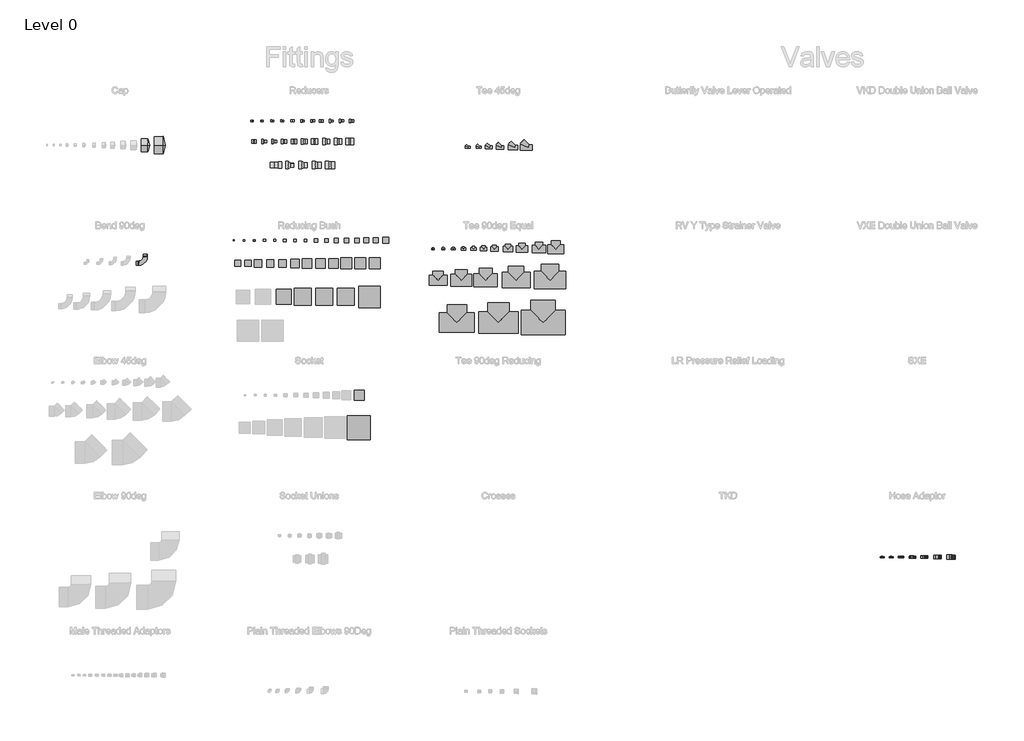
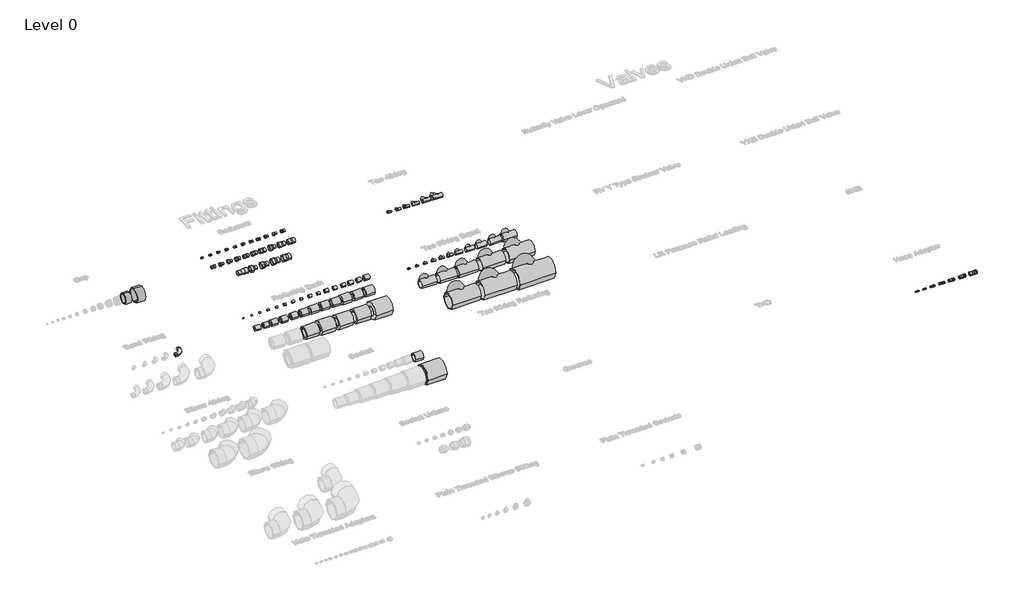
# One storey, part 3 of 12: 96 pipe fittings.
"""IFC4 building model written with IfcOpenShell, lengths in millimetres."""

from ifc_helpers import new_model, si_unit, origin, place, context, project, spatial, transform, mapped, element, save
from components import pipe_fitting_16mm_850bc981, pipe_fitting_25mm_09818e58, pipe_fitting_32mm_ba99279e, pipe_fitting_40mm_e630270e, pipe_fitting_50mm_83d2b3eb, pipe_fitting_63mm_7880f9b0, standard_dfb33618, standard_448b8371, standard_c2af7960, standard_34419c9d, standard_93e3d5d7, standard_e55b3d03, standard_8013207e, standard_dfcddfa7, standard_5c3544ee, standard_363f8bd0, standard_f1e78434, standard_f9ea2102, standard_206df129, standard_86f50a01, standard_abec5e11, standard_1e7e4467, standard_99a5edec, standard_7b42ab66, standard_017ffeb0, standard_373f575a, standard_f10e078b, standard_8775f316, standard_412f0ce8, standard_19ee6f34, standard_e4e67fd3, standard_3ad8c861, standard_5070e319, standard_ad03d6cd, standard_f76fbd2c, standard_6835cc84, standard_3e64da41, standard_85101fb3, standard_fc0df1e9, standard_52aa8875, standard_444fa2a4, standard_c90c374e, standard_609f0164, standard_133bc545, standard_a3a0cd7e, standard_374f9c32, standard_6fe0a5c0, standard_898c3797, standard_5060dffe, standard_5d3190d7, standard_05049b9e, standard_9c856316, standard_b5006dd4, standard_d3bba6bb, standard_af5c8028, standard_d8c47282, standard_e77122b3, standard_09e5b729, standard_e12a8c18, standard_a4762596, standard_249a9a1f, standard_b9ae2978, standard_2dc408c3, standard_f089f47d, standard_6955aa90, standard_6a62e4eb, standard_619cacc8, standard_0de1f3e2, standard_e7fcc8b7, standard_45c3dce5, standard_748e5fda, standard_14331bdb, standard_27df0c5f, standard_8bec462f, standard_50e1fd76, standard_17e0cad9, standard_7ca98134, standard_e05e3457, standard_87a3b79a, standard_8d36d9a6, standard_6810872d, standard_cb71c3b2, standard_6c07f169, standard_9147dc67, standard_b3bd9db2, standard_31d33d31, standard_094accc0, standard_629ca856, standard_0db77153, standard_20fe93ad, standard_bd03fc34, standard_95fd0c06, standard_f4d9acf0, standard_9f0dd0de, standard_9f89ecc7

model = new_model("IFC4")

# Units and contexts
model_context = context("Model", 3, world=origin())
ifc_project = project(units=[si_unit("LENGTHUNIT", "METRE", prefix="MILLI")], contexts=[model_context])

# Site, building, storey
site = spatial("IfcSite", under=ifc_project)
building = spatial("IfcBuilding", under=site)
storey = spatial("IfcBuildingStorey", under=building, Name="Level 0", Elevation=0.0)

# Pipe fittings
placement = place(None, origin())
pipe_fitting_16mm_shape = pipe_fitting_16mm_850bc981(model_context)
element("IfcPipeFitting", 1, ObjectType="Durapipe_PipeAccessories_PVC_HoseAdaptor : 16mm", at=placement, inside=storey, context=model_context, shape_type="MappedRepresentation", body=[
    mapped(pipe_fitting_16mm_shape, transform((-4956.2472943, 2084.5934768, 0.0), x_axis=(1.0, 0.0, 0.0), y_axis=(0.0, 1.0, 0.0), z_axis=(0.0, 0.0, 1.0))),
])
element("IfcPipeFitting", 2, ObjectType="Durapipe_PipeAccessories_PVC_HoseAdaptor : 20mm", at=placement, inside=storey, context=model_context, shape_type="MappedRepresentation", body=[
    mapped(pipe_fitting_16mm_shape, transform((-4823.8886064, 2084.5934768, 0.0), x_axis=(1.0, 0.0, 0.0), y_axis=(0.0, 1.0, 0.0), z_axis=(0.0, 0.0, 1.0))),
])
pipe_fitting_25mm_shape = pipe_fitting_25mm_09818e58(model_context)
element("IfcPipeFitting", 3, ObjectType="Durapipe_PipeAccessories_PVC_HoseAdaptor : 25mm", at=placement, inside=storey, context=model_context, shape_type="MappedRepresentation", body=[
    mapped(pipe_fitting_25mm_shape, transform((-4676.1839836, 2084.5934768, 0.0), x_axis=(1.0, 0.0, 0.0), y_axis=(0.0, 1.0, 0.0), z_axis=(0.0, 0.0, 1.0))),
])
pipe_fitting_32mm_shape = pipe_fitting_32mm_ba99279e(model_context)
element("IfcPipeFitting", 4, ObjectType="Durapipe_PipeAccessories_PVC_HoseAdaptor : 32mm", at=placement, inside=storey, context=model_context, shape_type="MappedRepresentation", body=[
    mapped(pipe_fitting_32mm_shape, transform((-4505.4604586, 2084.5934768, 0.0), x_axis=(1.0, 0.0, 0.0), y_axis=(0.0, 1.0, 0.0), z_axis=(0.0, 0.0, 1.0))),
])
pipe_fitting_40mm_shape = pipe_fitting_40mm_e630270e(model_context)
element("IfcPipeFitting", 5, ObjectType="Durapipe_PipeAccessories_PVC_HoseAdaptor : 40mm", at=placement, inside=storey, context=model_context, shape_type="MappedRepresentation", body=[
    mapped(pipe_fitting_40mm_shape, transform((-4332.7558358, 2084.5934768, 0.0), x_axis=(1.0, 0.0, 0.0), y_axis=(0.0, 1.0, 0.0), z_axis=(0.0, 0.0, 1.0))),
])
pipe_fitting_50mm_shape = pipe_fitting_50mm_83d2b3eb(model_context)
element("IfcPipeFitting", 6, ObjectType="Durapipe_PipeAccessories_PVC_HoseAdaptor : 50mm", at=placement, inside=storey, context=model_context, shape_type="MappedRepresentation", body=[
    mapped(pipe_fitting_50mm_shape, transform((-4135.0512131, 2084.5934768, 0.0), x_axis=(1.0, 0.0, 0.0), y_axis=(0.0, 1.0, 0.0), z_axis=(0.0, 0.0, 1.0))),
])
pipe_fitting_63mm_shape = pipe_fitting_63mm_7880f9b0(model_context)
element("IfcPipeFitting", 7, ObjectType="Durapipe_PipeAccessories_PVC_HoseAdaptor : 63mm", at=placement, inside=storey, context=model_context, shape_type="MappedRepresentation", body=[
    mapped(pipe_fitting_63mm_shape, transform((-3937.8182369, 2084.5934768, 0.0), x_axis=(1.0, 0.0, 0.0), y_axis=(0.0, 1.0, 0.0), z_axis=(0.0, 0.0, 1.0))),
])
standard_shape = standard_dfb33618(model_context)
element("IfcPipeFitting", 8, ObjectType="Durapipe_PipeFitting_PVC_Reducers : Standard", at=placement, inside=storey, context=model_context, shape_type="MappedRepresentation", body=[
    mapped(standard_shape, transform((-14135.3898596, 8540.3357405, 0.0), x_axis=(-1.0000000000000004, 0.0, 0.0), y_axis=(0.0, -1.0000000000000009, 0.0), z_axis=(0.0, 0.0, 1.0000000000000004))),
])
standard_2_shape = standard_448b8371(model_context)
element("IfcPipeFitting", 9, ObjectType="Durapipe_PipeFitting_PVC_Reducers : Standard", at=placement, inside=storey, context=model_context, shape_type="MappedRepresentation", body=[
    mapped(standard_2_shape, transform((-13985.3898596, 8540.3357405, 0.0), x_axis=(-1.0000000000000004, 0.0, 0.0), y_axis=(0.0, -1.0000000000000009, 0.0), z_axis=(0.0, 0.0, 1.0000000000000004))),
])
standard_3_shape = standard_c2af7960(model_context)
element("IfcPipeFitting", 10, ObjectType="Durapipe_PipeFitting_PVC_Reducers : Standard", at=placement, inside=storey, context=model_context, shape_type="MappedRepresentation", body=[
    mapped(standard_3_shape, transform((-13835.3898596, 8540.3357405, 0.0), x_axis=(-1.0000000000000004, 0.0, 0.0), y_axis=(0.0, -1.0000000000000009, 0.0), z_axis=(0.0, 0.0, 1.0000000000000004))),
])
standard_4_shape = standard_34419c9d(model_context)
element("IfcPipeFitting", 11, ObjectType="Durapipe_PipeFitting_PVC_Reducers : Standard", at=placement, inside=storey, context=model_context, shape_type="MappedRepresentation", body=[
    mapped(standard_4_shape, transform((-13685.3898596, 8540.3357405, 0.0), x_axis=(-1.0000000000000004, 0.0, 0.0), y_axis=(0.0, -1.0000000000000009, 0.0), z_axis=(0.0, 0.0, 1.0000000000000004))),
])
standard_5_shape = standard_93e3d5d7(model_context)
element("IfcPipeFitting", 12, ObjectType="Durapipe_PipeFitting_PVC_Reducers : Standard", at=placement, inside=storey, context=model_context, shape_type="MappedRepresentation", body=[
    mapped(standard_5_shape, transform((-13535.3898596, 8540.3357405, 0.0), x_axis=(-1.0000000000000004, 0.0, 0.0), y_axis=(0.0, -1.0000000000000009, 0.0), z_axis=(0.0, 0.0, 1.0000000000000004))),
])
standard_6_shape = standard_e55b3d03(model_context)
element("IfcPipeFitting", 13, ObjectType="Durapipe_PipeFitting_PVC_Reducers : Standard", at=placement, inside=storey, context=model_context, shape_type="MappedRepresentation", body=[
    mapped(standard_6_shape, transform((-13385.3898596, 8540.3357405, 0.0), x_axis=(-1.0000000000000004, 0.0, 0.0), y_axis=(0.0, -1.0000000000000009, 0.0), z_axis=(0.0, 0.0, 1.0000000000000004))),
])
standard_7_shape = standard_8013207e(model_context)
element("IfcPipeFitting", 14, ObjectType="Durapipe_PipeFitting_PVC_Reducers : Standard", at=placement, inside=storey, context=model_context, shape_type="MappedRepresentation", body=[
    mapped(standard_7_shape, transform((-13259.6569708, 8540.3357405, 0.0), x_axis=(-1.0000000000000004, 0.0, 0.0), y_axis=(0.0, -1.0000000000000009, 0.0), z_axis=(0.0, 0.0, 1.0000000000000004))),
])
standard_8_shape = standard_dfcddfa7(model_context)
element("IfcPipeFitting", 15, ObjectType="Durapipe_PipeFitting_PVC_Reducers : Standard", at=placement, inside=storey, context=model_context, shape_type="MappedRepresentation", body=[
    mapped(standard_8_shape, transform((-13109.6569708, 8540.3357405, 0.0), x_axis=(-1.0000000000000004, 0.0, 0.0), y_axis=(0.0, -1.0000000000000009, 0.0), z_axis=(0.0, 0.0, 1.0000000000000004))),
])
standard_9_shape = standard_5c3544ee(model_context)
element("IfcPipeFitting", 16, ObjectType="Durapipe_PipeFitting_PVC_Reducers : Standard", at=placement, inside=storey, context=model_context, shape_type="MappedRepresentation", body=[
    mapped(standard_9_shape, transform((-12959.6569708, 8540.3357405, 0.0), x_axis=(-1.0000000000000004, 0.0, 0.0), y_axis=(0.0, -1.0000000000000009, 0.0), z_axis=(0.0, 0.0, 1.0000000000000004))),
])
standard_10_shape = standard_363f8bd0(model_context)
element("IfcPipeFitting", 17, ObjectType="Durapipe_PipeFitting_PVC_Reducers : Standard", at=placement, inside=storey, context=model_context, shape_type="MappedRepresentation", body=[
    mapped(standard_10_shape, transform((-12809.6569708, 8540.3357405, 0.0), x_axis=(-1.0000000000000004, 0.0, 0.0), y_axis=(0.0, -1.0000000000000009, 0.0), z_axis=(0.0, 0.0, 1.0000000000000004))),
])
standard_11_shape = standard_f1e78434(model_context)
element("IfcPipeFitting", 18, ObjectType="Durapipe_PipeFitting_PVC_Reducers : Standard", at=placement, inside=storey, context=model_context, shape_type="MappedRepresentation", body=[
    mapped(standard_11_shape, transform((-14254.8898596, 8235.3357405, 0.0), x_axis=(-1.0000000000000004, 0.0, 0.0), y_axis=(0.0, -1.0000000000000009, 0.0), z_axis=(0.0, 0.0, 1.0000000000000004))),
])
standard_12_shape = standard_f9ea2102(model_context)
element("IfcPipeFitting", 19, ObjectType="Durapipe_PipeFitting_PVC_Reducers : Standard", at=placement, inside=storey, context=model_context, shape_type="MappedRepresentation", body=[
    mapped(standard_12_shape, transform((-14104.8898596, 8235.3357405, 0.0), x_axis=(-1.0000000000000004, 0.0, 0.0), y_axis=(0.0, -1.0000000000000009, 0.0), z_axis=(0.0, 0.0, 1.0000000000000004))),
])
standard_13_shape = standard_206df129(model_context)
element("IfcPipeFitting", 20, ObjectType="Durapipe_PipeFitting_PVC_Reducers : Standard", at=placement, inside=storey, context=model_context, shape_type="MappedRepresentation", body=[
    mapped(standard_13_shape, transform((-13954.8898596, 8235.3357405, 0.0), x_axis=(-1.0000000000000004, 0.0, 0.0), y_axis=(0.0, -1.0000000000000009, 0.0), z_axis=(0.0, 0.0, 1.0000000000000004))),
])
standard_14_shape = standard_86f50a01(model_context)
element("IfcPipeFitting", 21, ObjectType="Durapipe_PipeFitting_PVC_Reducers : Standard", at=placement, inside=storey, context=model_context, shape_type="MappedRepresentation", body=[
    mapped(standard_14_shape, transform((-13811.2381562, 8235.3357405, 0.0), x_axis=(-1.0000000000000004, 0.0, 0.0), y_axis=(0.0, -1.0000000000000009, 0.0), z_axis=(0.0, 0.0, 1.0000000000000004))),
])
standard_15_shape = standard_abec5e11(model_context)
element("IfcPipeFitting", 22, ObjectType="Durapipe_PipeFitting_PVC_Reducers : Standard", at=placement, inside=storey, context=model_context, shape_type="MappedRepresentation", body=[
    mapped(standard_15_shape, transform((-13659.7381562, 8235.3357405, 0.0), x_axis=(-1.0000000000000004, 0.0, 0.0), y_axis=(0.0, -1.0000000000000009, 0.0), z_axis=(0.0, 0.0, 1.0000000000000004))),
])
standard_16_shape = standard_1e7e4467(model_context)
element("IfcPipeFitting", 23, ObjectType="Durapipe_PipeFitting_PVC_Reducers : Standard", at=placement, inside=storey, context=model_context, shape_type="MappedRepresentation", body=[
    mapped(standard_16_shape, transform((-13509.7381562, 8235.3357405, 0.0), x_axis=(-1.0000000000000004, 0.0, 0.0), y_axis=(0.0, -1.0000000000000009, 0.0), z_axis=(0.0, 0.0, 1.0000000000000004))),
])
standard_17_shape = standard_99a5edec(model_context)
element("IfcPipeFitting", 24, ObjectType="Durapipe_PipeFitting_PVC_Reducers : Standard", at=placement, inside=storey, context=model_context, shape_type="MappedRepresentation", body=[
    mapped(standard_17_shape, transform((-13359.7381562, 8235.3357405, 0.0), x_axis=(-1.0000000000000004, 0.0, 0.0), y_axis=(0.0, -1.0000000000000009, 0.0), z_axis=(0.0, 0.0, 1.0000000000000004))),
])
standard_18_shape = standard_7b42ab66(model_context)
element("IfcPipeFitting", 25, ObjectType="Durapipe_PipeFitting_PVC_Reducers : Standard", at=placement, inside=storey, context=model_context, shape_type="MappedRepresentation", body=[
    mapped(standard_18_shape, transform((-13184.7381562, 8235.3357405, 0.0), x_axis=(-1.0000000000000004, 0.0, 0.0), y_axis=(0.0, -1.0000000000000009, 0.0), z_axis=(0.0, 0.0, 1.0000000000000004))),
])
standard_19_shape = standard_017ffeb0(model_context)
element("IfcPipeFitting", 26, ObjectType="Durapipe_PipeFitting_PVC_Reducers : Standard", at=placement, inside=storey, context=model_context, shape_type="MappedRepresentation", body=[
    mapped(standard_19_shape, transform((-13009.7381562, 8235.3357405, 0.0), x_axis=(-1.0000000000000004, 0.0, 0.0), y_axis=(0.0, -1.0000000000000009, 0.0), z_axis=(0.0, 0.0, 1.0000000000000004))),
])
standard_20_shape = standard_373f575a(model_context)
element("IfcPipeFitting", 27, ObjectType="Durapipe_PipeFitting_PVC_Reducers : Standard", at=placement, inside=storey, context=model_context, shape_type="MappedRepresentation", body=[
    mapped(standard_20_shape, transform((-12834.7381562, 8235.3357405, 0.0), x_axis=(-1.0000000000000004, 0.0, 0.0), y_axis=(0.0, -1.0000000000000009, 0.0), z_axis=(0.0, 0.0, 1.0000000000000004))),
])
standard_21_shape = standard_f10e078b(model_context)
element("IfcPipeFitting", 28, ObjectType="Durapipe_PipeFitting_PVC_Reducers : Standard", at=placement, inside=storey, context=model_context, shape_type="MappedRepresentation", body=[
    mapped(standard_21_shape, transform((-13927.1398596, 7885.3357405, 0.0), x_axis=(-1.0000000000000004, 0.0, 0.0), y_axis=(0.0, -1.0000000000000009, 0.0), z_axis=(0.0, 0.0, 1.0000000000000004))),
])
standard_22_shape = standard_8775f316(model_context)
element("IfcPipeFitting", 29, ObjectType="Durapipe_PipeFitting_PVC_Reducers : Standard", at=placement, inside=storey, context=model_context, shape_type="MappedRepresentation", body=[
    mapped(standard_22_shape, transform((-13727.1398596, 7885.3357405, 0.0), x_axis=(-1.0000000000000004, 0.0, 0.0), y_axis=(0.0, -1.0000000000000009, 0.0), z_axis=(0.0, 0.0, 1.0000000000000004))),
])
standard_23_shape = standard_412f0ce8(model_context)
element("IfcPipeFitting", 30, ObjectType="Durapipe_PipeFitting_PVC_Reducers : Standard", at=placement, inside=storey, context=model_context, shape_type="MappedRepresentation", body=[
    mapped(standard_23_shape, transform((-13527.1398596, 7885.3357405, 0.0), x_axis=(-1.0000000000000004, 0.0, 0.0), y_axis=(0.0, -1.0000000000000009, 0.0), z_axis=(0.0, 0.0, 1.0000000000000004))),
])
standard_24_shape = standard_19ee6f34(model_context)
element("IfcPipeFitting", 31, ObjectType="Durapipe_PipeFitting_PVC_Reducers : Standard", at=placement, inside=storey, context=model_context, shape_type="MappedRepresentation", body=[
    mapped(standard_24_shape, transform((-13327.1398596, 7885.3357405, 0.0), x_axis=(-1.0000000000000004, 0.0, 0.0), y_axis=(0.0, -1.0000000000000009, 0.0), z_axis=(0.0, 0.0, 1.0000000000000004))),
])
standard_25_shape = standard_e4e67fd3(model_context)
element("IfcPipeFitting", 32, ObjectType="Durapipe_PipeFitting_PVC_Reducers : Standard", at=placement, inside=storey, context=model_context, shape_type="MappedRepresentation", body=[
    mapped(standard_25_shape, transform((-13127.1398596, 7885.3357405, 0.0), x_axis=(-1.0000000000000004, 0.0, 0.0), y_axis=(0.0, -1.0000000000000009, 0.0), z_axis=(0.0, 0.0, 1.0000000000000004))),
])
standard_26_shape = standard_3ad8c861(model_context)
element("IfcPipeFitting", 33, ObjectType="Durapipe_PipeFitting_PVC_ReducingBush : Standard", at=placement, inside=storey, context=model_context, shape_type="MappedRepresentation", body=[
    mapped(standard_26_shape, transform((-14559.4582048, 6771.7369744, 0.0), x_axis=(1.0, 0.0, 0.0), y_axis=(0.0, 1.0, 0.0), z_axis=(0.0, 0.0, 1.0))),
])
standard_27_shape = standard_5070e319(model_context)
element("IfcPipeFitting", 34, ObjectType="Durapipe_PipeFitting_PVC_ReducingBush : Standard", at=placement, inside=storey, context=model_context, shape_type="MappedRepresentation", body=[
    mapped(standard_27_shape, transform((-14259.4582048, 6771.7369744, 0.0), x_axis=(1.0, 0.0, 0.0), y_axis=(0.0, 1.0, 0.0), z_axis=(0.0, 0.0, 1.0))),
])
standard_28_shape = standard_ad03d6cd(model_context)
element("IfcPipeFitting", 35, ObjectType="Durapipe_PipeFitting_PVC_ReducingBush : Standard", at=placement, inside=storey, context=model_context, shape_type="MappedRepresentation", body=[
    mapped(standard_28_shape, transform((-14109.4582048, 6771.7369744, 0.0), x_axis=(1.0, 0.0, 0.0), y_axis=(0.0, 1.0, 0.0), z_axis=(0.0, 0.0, 1.0))),
])
standard_29_shape = standard_f76fbd2c(model_context)
element("IfcPipeFitting", 36, ObjectType="Durapipe_PipeFitting_PVC_ReducingBush : Standard", at=placement, inside=storey, context=model_context, shape_type="MappedRepresentation", body=[
    mapped(standard_29_shape, transform((-13959.4582048, 6771.7369744, 0.0), x_axis=(1.0, 0.0, 0.0), y_axis=(0.0, 1.0, 0.0), z_axis=(0.0, 0.0, 1.0))),
])
standard_30_shape = standard_6835cc84(model_context)
element("IfcPipeFitting", 37, ObjectType="Durapipe_PipeFitting_PVC_ReducingBush : Standard", at=placement, inside=storey, context=model_context, shape_type="MappedRepresentation", body=[
    mapped(standard_30_shape, transform((-13809.4582048, 6771.7369744, 0.0), x_axis=(1.0, 0.0, 0.0), y_axis=(0.0, 1.0, 0.0), z_axis=(0.0, 0.0, 1.0))),
])
standard_31_shape = standard_3e64da41(model_context)
element("IfcPipeFitting", 38, ObjectType="Durapipe_PipeFitting_PVC_ReducingBush : Standard", at=placement, inside=storey, context=model_context, shape_type="MappedRepresentation", body=[
    mapped(standard_31_shape, transform((-13659.4582048, 6771.7369744, 0.0), x_axis=(1.0, 0.0, 0.0), y_axis=(0.0, 1.0, 0.0), z_axis=(0.0, 0.0, 1.0))),
])
standard_32_shape = standard_85101fb3(model_context)
element("IfcPipeFitting", 39, ObjectType="Durapipe_PipeFitting_PVC_ReducingBush : Standard", at=placement, inside=storey, context=model_context, shape_type="MappedRepresentation", body=[
    mapped(standard_32_shape, transform((-13509.4582048, 6771.7369744, 0.0), x_axis=(1.0, 0.0, 0.0), y_axis=(0.0, 1.0, 0.0), z_axis=(0.0, 0.0, 1.0))),
])
standard_33_shape = standard_fc0df1e9(model_context)
element("IfcPipeFitting", 40, ObjectType="Durapipe_PipeFitting_PVC_ReducingBush : Standard", at=placement, inside=storey, context=model_context, shape_type="MappedRepresentation", body=[
    mapped(standard_33_shape, transform((-13353.1296579, 6771.7369744, 0.0), x_axis=(1.0, 0.0, 0.0), y_axis=(0.0, 1.0, 0.0), z_axis=(0.0, 0.0, 1.0))),
])
standard_34_shape = standard_52aa8875(model_context)
element("IfcPipeFitting", 41, ObjectType="Durapipe_PipeFitting_PVC_ReducingBush : Standard", at=placement, inside=storey, context=model_context, shape_type="MappedRepresentation", body=[
    mapped(standard_34_shape, transform((-13203.1296579, 6771.7369744, 0.0), x_axis=(1.0, 0.0, 0.0), y_axis=(0.0, 1.0, 0.0), z_axis=(0.0, 0.0, 1.0))),
])
standard_35_shape = standard_444fa2a4(model_context)
element("IfcPipeFitting", 42, ObjectType="Durapipe_PipeFitting_PVC_ReducingBush : Standard", at=placement, inside=storey, context=model_context, shape_type="MappedRepresentation", body=[
    mapped(standard_35_shape, transform((-13053.1296579, 6771.7369744, 0.0), x_axis=(1.0, 0.0, 0.0), y_axis=(0.0, 1.0, 0.0), z_axis=(0.0, 0.0, 1.0))),
])
standard_36_shape = standard_c90c374e(model_context)
element("IfcPipeFitting", 43, ObjectType="Durapipe_PipeFitting_PVC_ReducingBush : Standard", at=placement, inside=storey, context=model_context, shape_type="MappedRepresentation", body=[
    mapped(standard_36_shape, transform((-12903.1296579, 6771.7369744, 0.0), x_axis=(1.0, 0.0, 0.0), y_axis=(0.0, 1.0, 0.0), z_axis=(0.0, 0.0, 1.0))),
])
standard_37_shape = standard_609f0164(model_context)
element("IfcPipeFitting", 44, ObjectType="Durapipe_PipeFitting_PVC_ReducingBush : Standard", at=placement, inside=storey, context=model_context, shape_type="MappedRepresentation", body=[
    mapped(standard_37_shape, transform((-12753.1296579, 6771.7369744, 0.0), x_axis=(1.0, 0.0, 0.0), y_axis=(0.0, 1.0, 0.0), z_axis=(0.0, 0.0, 1.0))),
])
standard_38_shape = standard_133bc545(model_context)
element("IfcPipeFitting", 45, ObjectType="Durapipe_PipeFitting_PVC_ReducingBush : Standard", at=placement, inside=storey, context=model_context, shape_type="MappedRepresentation", body=[
    mapped(standard_38_shape, transform((-12619.9275666, 6771.7369744, 0.0), x_axis=(1.0, 0.0, 0.0), y_axis=(0.0, 1.0, 0.0), z_axis=(0.0, 0.0, 1.0))),
])
standard_39_shape = standard_a3a0cd7e(model_context)
element("IfcPipeFitting", 46, ObjectType="Durapipe_PipeFitting_PVC_ReducingBush : Standard", at=placement, inside=storey, context=model_context, shape_type="MappedRepresentation", body=[
    mapped(standard_39_shape, transform((-12479.9275666, 6771.7369744, 0.0), x_axis=(1.0, 0.0, 0.0), y_axis=(0.0, 1.0, 0.0), z_axis=(0.0, 0.0, 1.0))),
])
standard_40_shape = standard_374f9c32(model_context)
element("IfcPipeFitting", 47, ObjectType="Durapipe_PipeFitting_PVC_ReducingBush : Standard", at=placement, inside=storey, context=model_context, shape_type="MappedRepresentation", body=[
    mapped(standard_40_shape, transform((-12329.9275666, 6771.7369744, 0.0), x_axis=(1.0, 0.0, 0.0), y_axis=(0.0, 1.0, 0.0), z_axis=(0.0, 0.0, 1.0))),
])
standard_41_shape = standard_6fe0a5c0(model_context)
element("IfcPipeFitting", 48, ObjectType="Durapipe_PipeFitting_PVC_ReducingBush : Standard", at=placement, inside=storey, context=model_context, shape_type="MappedRepresentation", body=[
    mapped(standard_41_shape, transform((-14525.9582048, 6431.7369744, 0.0), x_axis=(1.0, 0.0, 0.0), y_axis=(0.0, 1.0, 0.0), z_axis=(0.0, 0.0, 1.0))),
])
standard_42_shape = standard_898c3797(model_context)
element("IfcPipeFitting", 49, ObjectType="Durapipe_PipeFitting_PVC_ReducingBush : Standard", at=placement, inside=storey, context=model_context, shape_type="MappedRepresentation", body=[
    mapped(standard_42_shape, transform((-14380.9582048, 6431.7369744, 0.0), x_axis=(1.0, 0.0, 0.0), y_axis=(0.0, 1.0, 0.0), z_axis=(0.0, 0.0, 1.0))),
])
standard_43_shape = standard_5060dffe(model_context)
element("IfcPipeFitting", 50, ObjectType="Durapipe_PipeFitting_PVC_ReducingBush : Standard", at=placement, inside=storey, context=model_context, shape_type="MappedRepresentation", body=[
    mapped(standard_43_shape, transform((-14225.9582048, 6431.7369744, 0.0), x_axis=(1.0, 0.0, 0.0), y_axis=(0.0, 1.0, 0.0), z_axis=(0.0, 0.0, 1.0))),
])
standard_44_shape = standard_5d3190d7(model_context)
element("IfcPipeFitting", 51, ObjectType="Durapipe_PipeFitting_PVC_ReducingBush : Standard", at=placement, inside=storey, context=model_context, shape_type="MappedRepresentation", body=[
    mapped(standard_44_shape, transform((-14050.9582048, 6431.7369744, 0.0), x_axis=(1.0, 0.0, 0.0), y_axis=(0.0, 1.0, 0.0), z_axis=(0.0, 0.0, 1.0))),
])
standard_45_shape = standard_05049b9e(model_context)
element("IfcPipeFitting", 52, ObjectType="Durapipe_PipeFitting_PVC_ReducingBush : Standard", at=placement, inside=storey, context=model_context, shape_type="MappedRepresentation", body=[
    mapped(standard_45_shape, transform((-13875.9582048, 6431.7369744, 0.0), x_axis=(1.0, 0.0, 0.0), y_axis=(0.0, 1.0, 0.0), z_axis=(0.0, 0.0, 1.0))),
])
standard_46_shape = standard_9c856316(model_context)
element("IfcPipeFitting", 53, ObjectType="Durapipe_PipeFitting_PVC_ReducingBush : Standard", at=placement, inside=storey, context=model_context, shape_type="MappedRepresentation", body=[
    mapped(standard_46_shape, transform((-13700.9582048, 6431.7369744, 0.0), x_axis=(1.0, 0.0, 0.0), y_axis=(0.0, 1.0, 0.0), z_axis=(0.0, 0.0, 1.0))),
])
standard_47_shape = standard_b5006dd4(model_context)
element("IfcPipeFitting", 54, ObjectType="Durapipe_PipeFitting_PVC_ReducingBush : Standard", at=placement, inside=storey, context=model_context, shape_type="MappedRepresentation", body=[
    mapped(standard_47_shape, transform((-13510.9582048, 6431.7369744, 0.0), x_axis=(1.0, 0.0, 0.0), y_axis=(0.0, 1.0, 0.0), z_axis=(0.0, 0.0, 1.0))),
])
standard_48_shape = standard_d3bba6bb(model_context)
element("IfcPipeFitting", 55, ObjectType="Durapipe_PipeFitting_PVC_ReducingBush : Standard", at=placement, inside=storey, context=model_context, shape_type="MappedRepresentation", body=[
    mapped(standard_48_shape, transform((-13324.8609755, 6431.7369744, 0.0), x_axis=(1.0, 0.0, 0.0), y_axis=(0.0, 1.0, 0.0), z_axis=(0.0, 0.0, 1.0))),
])
standard_49_shape = standard_af5c8028(model_context)
element("IfcPipeFitting", 56, ObjectType="Durapipe_PipeFitting_PVC_ReducingBush : Standard", at=placement, inside=storey, context=model_context, shape_type="MappedRepresentation", body=[
    mapped(standard_49_shape, transform((-13134.8609755, 6431.7369744, 0.0), x_axis=(1.0, 0.0, 0.0), y_axis=(0.0, 1.0, 0.0), z_axis=(0.0, 0.0, 1.0))),
])
standard_50_shape = standard_d8c47282(model_context)
element("IfcPipeFitting", 57, ObjectType="Durapipe_PipeFitting_PVC_ReducingBush : Standard", at=placement, inside=storey, context=model_context, shape_type="MappedRepresentation", body=[
    mapped(standard_50_shape, transform((-12934.8609755, 6431.7369744, 0.0), x_axis=(1.0, 0.0, 0.0), y_axis=(0.0, 1.0, 0.0), z_axis=(0.0, 0.0, 1.0))),
])
standard_51_shape = standard_e77122b3(model_context)
element("IfcPipeFitting", 58, ObjectType="Durapipe_PipeFitting_PVC_ReducingBush : Standard", at=placement, inside=storey, context=model_context, shape_type="MappedRepresentation", body=[
    mapped(standard_51_shape, transform((-12734.8609755, 6431.7369744, 0.0), x_axis=(1.0, 0.0, 0.0), y_axis=(0.0, 1.0, 0.0), z_axis=(0.0, 0.0, 1.0))),
])
standard_52_shape = standard_09e5b729(model_context)
element("IfcPipeFitting", 59, ObjectType="Durapipe_PipeFitting_PVC_ReducingBush : Standard", at=placement, inside=storey, context=model_context, shape_type="MappedRepresentation", body=[
    mapped(standard_52_shape, transform((-12534.8609755, 6431.7369744, 0.0), x_axis=(1.0, 0.0, 0.0), y_axis=(0.0, 1.0, 0.0), z_axis=(0.0, 0.0, 1.0))),
])
standard_53_shape = standard_e12a8c18(model_context)
element("IfcPipeFitting", 60, ObjectType="Durapipe_PipeFitting_PVC_ReducingBush : Standard", at=placement, inside=storey, context=model_context, shape_type="MappedRepresentation", body=[
    mapped(standard_53_shape, transform((-13914.9465761, 5935.7253457, 0.0), x_axis=(1.0, 0.0, 0.0), y_axis=(0.0, 1.0, 0.0), z_axis=(0.0, 0.0, 1.0))),
])
standard_54_shape = standard_a4762596(model_context)
element("IfcPipeFitting", 61, ObjectType="Durapipe_PipeFitting_PVC_ReducingBush : Standard", at=placement, inside=storey, context=model_context, shape_type="MappedRepresentation", body=[
    mapped(standard_54_shape, transform((-13614.9465761, 5935.7253457, 0.0), x_axis=(1.0, 0.0, 0.0), y_axis=(0.0, 1.0, 0.0), z_axis=(0.0, 0.0, 1.0))),
])
standard_55_shape = standard_249a9a1f(model_context)
element("IfcPipeFitting", 62, ObjectType="Durapipe_PipeFitting_PVC_ReducingBush : Standard", at=placement, inside=storey, context=model_context, shape_type="MappedRepresentation", body=[
    mapped(standard_55_shape, transform((-13314.9465761, 5935.7253457, 0.0), x_axis=(1.0, 0.0, 0.0), y_axis=(0.0, 1.0, 0.0), z_axis=(0.0, 0.0, 1.0))),
])
standard_56_shape = standard_b9ae2978(model_context)
element("IfcPipeFitting", 63, ObjectType="Durapipe_PipeFitting_PVC_ReducingBush : Standard", at=placement, inside=storey, context=model_context, shape_type="MappedRepresentation", body=[
    mapped(standard_56_shape, transform((-13009.4606747, 5935.7253457, 0.0), x_axis=(1.0, 0.0, 0.0), y_axis=(0.0, 1.0, 0.0), z_axis=(0.0, 0.0, 1.0))),
])
standard_57_shape = standard_2dc408c3(model_context)
element("IfcPipeFitting", 64, ObjectType="Durapipe_PipeFitting_PVC_ReducingBush : Standard", at=placement, inside=storey, context=model_context, shape_type="MappedRepresentation", body=[
    mapped(standard_57_shape, transform((-12644.4606747, 5935.7253457, 0.0), x_axis=(1.0, 0.0, 0.0), y_axis=(0.0, 1.0, 0.0), z_axis=(0.0, 0.0, 1.0))),
])
standard_58_shape = standard_f089f47d(model_context)
element("IfcPipeFitting", 65, ObjectType="Durapipe_PipeFitting_PVC_Socket : Standard", at=placement, inside=storey, context=model_context, shape_type="MappedRepresentation", body=[
    mapped(standard_58_shape, transform((-12693.7763211, 4481.0869006, 0.0), x_axis=(1.0, 0.0, 0.0), y_axis=(0.0, 1.0, 0.0), z_axis=(0.0, 0.0, 1.0))),
])
standard_59_shape = standard_6955aa90(model_context)
element("IfcPipeFitting", 66, ObjectType="Durapipe_PipeFitting_PVC_Socket : Standard", at=placement, inside=storey, context=model_context, shape_type="MappedRepresentation", body=[
    mapped(standard_59_shape, transform((-12705.8566634, 4001.0869006, 0.0), x_axis=(1.0, 0.0, 0.0), y_axis=(0.0, 1.0, 0.0), z_axis=(0.0, 0.0, 1.0))),
])
standard_60_shape = standard_6a62e4eb(model_context)
element("IfcPipeFitting", 67, ObjectType="Durapipe_PipeFitting_PVC_SR_Bend90deg : Standard", at=placement, inside=storey, context=model_context, shape_type="MappedRepresentation", body=[
    mapped(standard_60_shape, transform((-15862.263518, 6431.7369744, 0.0), x_axis=(1.0, 0.0, 0.0), y_axis=(0.0, 1.0, 0.0), z_axis=(0.0, 0.0, 1.0))),
])
standard_61_shape = standard_619cacc8(model_context)
element("IfcPipeFitting", 68, ObjectType="Durapipe_PipeFitting_PVC_Tee45deg : Standard", at=placement, inside=storey, context=model_context, shape_type="MappedRepresentation", body=[
    mapped(standard_61_shape, transform((-10916.2736659, 8148.6639148, 0.0), x_axis=(1.0, 0.0, 0.0), y_axis=(0.0, 1.0, 0.0), z_axis=(0.0, 0.0, 1.0))),
])
standard_62_shape = standard_0de1f3e2(model_context)
element("IfcPipeFitting", 69, ObjectType="Durapipe_PipeFitting_PVC_Tee45deg : Standard", at=placement, inside=storey, context=model_context, shape_type="MappedRepresentation", body=[
    mapped(standard_62_shape, transform((-10766.2736659, 8148.6639148, 0.0), x_axis=(1.0, 0.0, 0.0), y_axis=(0.0, 1.0, 0.0), z_axis=(0.0, 0.0, 1.0))),
])
standard_63_shape = standard_e7fcc8b7(model_context)
element("IfcPipeFitting", 70, ObjectType="Durapipe_PipeFitting_PVC_Tee45deg : Standard", at=placement, inside=storey, context=model_context, shape_type="MappedRepresentation", body=[
    mapped(standard_63_shape, transform((-10596.2736659, 8148.6639148, 0.0), x_axis=(1.0, 0.0, 0.0), y_axis=(0.0, 1.0, 0.0), z_axis=(0.0, 0.0, 1.0))),
])
standard_64_shape = standard_45c3dce5(model_context)
element("IfcPipeFitting", 71, ObjectType="Durapipe_PipeFitting_PVC_Tee45deg : Standard", at=placement, inside=storey, context=model_context, shape_type="MappedRepresentation", body=[
    mapped(standard_64_shape, transform((-10396.2736659, 8148.6639148, 0.0), x_axis=(1.0, 0.0, 0.0), y_axis=(0.0, 1.0, 0.0), z_axis=(0.0, 0.0, 1.0))),
])
standard_65_shape = standard_748e5fda(model_context)
element("IfcPipeFitting", 72, ObjectType="Durapipe_PipeFitting_PVC_Tee45deg : Standard", at=placement, inside=storey, context=model_context, shape_type="MappedRepresentation", body=[
    mapped(standard_65_shape, transform((-10196.2736659, 8148.6639148, 0.0), x_axis=(1.0, 0.0, 0.0), y_axis=(0.0, 1.0, 0.0), z_axis=(0.0, 0.0, 1.0))),
])
standard_66_shape = standard_14331bdb(model_context)
element("IfcPipeFitting", 73, ObjectType="Durapipe_PipeFitting_PVC_Tee90degEqual : Standard", at=placement, inside=storey, context=model_context, shape_type="MappedRepresentation", body=[
    mapped(standard_66_shape, transform((-11454.9291426, 6643.7980755, 0.0), x_axis=(1.0, 0.0, 0.0), y_axis=(0.0, 1.0, 0.0), z_axis=(0.0, 0.0, 1.0))),
])
standard_67_shape = standard_27df0c5f(model_context)
element("IfcPipeFitting", 74, ObjectType="Durapipe_PipeFitting_PVC_Tee90degEqual : Standard", at=placement, inside=storey, context=model_context, shape_type="MappedRepresentation", body=[
    mapped(standard_67_shape, transform((-11304.9291426, 6643.7980755, 0.0), x_axis=(1.0, 0.0, 0.0), y_axis=(0.0, 1.0, 0.0), z_axis=(0.0, 0.0, 1.0))),
])
standard_68_shape = standard_8bec462f(model_context)
element("IfcPipeFitting", 75, ObjectType="Durapipe_PipeFitting_PVC_Tee90degEqual : Standard", at=placement, inside=storey, context=model_context, shape_type="MappedRepresentation", body=[
    mapped(standard_68_shape, transform((-11154.9291426, 6643.7980755, 0.0), x_axis=(1.0, 0.0, 0.0), y_axis=(0.0, 1.0, 0.0), z_axis=(0.0, 0.0, 1.0))),
])
standard_69_shape = standard_50e1fd76(model_context)
element("IfcPipeFitting", 76, ObjectType="Durapipe_PipeFitting_PVC_Tee90degEqual : Standard", at=placement, inside=storey, context=model_context, shape_type="MappedRepresentation", body=[
    mapped(standard_69_shape, transform((-11004.9291426, 6643.7980755, 0.0), x_axis=(1.0, 0.0, 0.0), y_axis=(0.0, 1.0, 0.0), z_axis=(0.0, 0.0, 1.0))),
])
standard_70_shape = standard_17e0cad9(model_context)
element("IfcPipeFitting", 77, ObjectType="Durapipe_PipeFitting_PVC_Tee90degEqual : Standard", at=placement, inside=storey, context=model_context, shape_type="MappedRepresentation", body=[
    mapped(standard_70_shape, transform((-10854.9291426, 6643.7980755, 0.0), x_axis=(1.0, 0.0, 0.0), y_axis=(0.0, 1.0, 0.0), z_axis=(0.0, 0.0, 1.0))),
])
standard_71_shape = standard_7ca98134(model_context)
element("IfcPipeFitting", 78, ObjectType="Durapipe_PipeFitting_PVC_Tee90degEqual : Standard", at=placement, inside=storey, context=model_context, shape_type="MappedRepresentation", body=[
    mapped(standard_71_shape, transform((-10694.9291426, 6643.7980755, 0.0), x_axis=(1.0, 0.0, 0.0), y_axis=(0.0, 1.0, 0.0), z_axis=(0.0, 0.0, 1.0))),
])
standard_72_shape = standard_e05e3457(model_context)
element("IfcPipeFitting", 79, ObjectType="Durapipe_PipeFitting_PVC_Tee90degEqual : Standard", at=placement, inside=storey, context=model_context, shape_type="MappedRepresentation", body=[
    mapped(standard_72_shape, transform((-10494.9291426, 6643.7980755, 0.0), x_axis=(1.0, 0.0, 0.0), y_axis=(0.0, 1.0, 0.0), z_axis=(0.0, 0.0, 1.0))),
])
standard_73_shape = standard_87a3b79a(model_context)
element("IfcPipeFitting", 80, ObjectType="Durapipe_PipeFitting_PVC_Tee90degEqual : Standard", at=placement, inside=storey, context=model_context, shape_type="MappedRepresentation", body=[
    mapped(standard_73_shape, transform((-10287.4974442, 6643.7980755, 0.0), x_axis=(1.0, 0.0, 0.0), y_axis=(0.0, 1.0, 0.0), z_axis=(0.0, 0.0, 1.0))),
])
standard_74_shape = standard_8d36d9a6(model_context)
element("IfcPipeFitting", 81, ObjectType="Durapipe_PipeFitting_PVC_Tee90degEqual : Standard", at=placement, inside=storey, context=model_context, shape_type="MappedRepresentation", body=[
    mapped(standard_74_shape, transform((-10037.4974442, 6643.7980755, 0.0), x_axis=(1.0, 0.0, 0.0), y_axis=(0.0, 1.0, 0.0), z_axis=(0.0, 0.0, 1.0))),
])
standard_75_shape = standard_6810872d(model_context)
element("IfcPipeFitting", 82, ObjectType="Durapipe_PipeFitting_PVC_Tee90degEqual : Standard", at=placement, inside=storey, context=model_context, shape_type="MappedRepresentation", body=[
    mapped(standard_75_shape, transform((-9787.4974442, 6643.7980755, 0.0), x_axis=(1.0, 0.0, 0.0), y_axis=(0.0, 1.0, 0.0), z_axis=(0.0, 0.0, 1.0))),
])
standard_76_shape = standard_cb71c3b2(model_context)
element("IfcPipeFitting", 83, ObjectType="Durapipe_PipeFitting_PVC_Tee90degEqual : Standard", at=placement, inside=storey, context=model_context, shape_type="MappedRepresentation", body=[
    mapped(standard_76_shape, transform((-11529.9291426, 6183.7980755, 0.0), x_axis=(1.0, 0.0, 0.0), y_axis=(0.0, 1.0, 0.0), z_axis=(0.0, 0.0, 1.0))),
])
standard_77_shape = standard_6c07f169(model_context)
element("IfcPipeFitting", 84, ObjectType="Durapipe_PipeFitting_PVC_Tee90degEqual : Standard", at=placement, inside=storey, context=model_context, shape_type="MappedRepresentation", body=[
    mapped(standard_77_shape, transform((-11184.9291426, 6183.7980755, 0.0), x_axis=(1.0, 0.0, 0.0), y_axis=(0.0, 1.0, 0.0), z_axis=(0.0, 0.0, 1.0))),
])
standard_78_shape = standard_9147dc67(model_context)
element("IfcPipeFitting", 85, ObjectType="Durapipe_PipeFitting_PVC_Tee90degEqual : Standard", at=placement, inside=storey, context=model_context, shape_type="MappedRepresentation", body=[
    mapped(standard_78_shape, transform((-10824.9291426, 6183.7980755, 0.0), x_axis=(1.0, 0.0, 0.0), y_axis=(0.0, 1.0, 0.0), z_axis=(0.0, 0.0, 1.0))),
])
standard_79_shape = standard_b3bd9db2(model_context)
element("IfcPipeFitting", 86, ObjectType="Durapipe_PipeFitting_PVC_Tee90degEqual : Standard", at=placement, inside=storey, context=model_context, shape_type="MappedRepresentation", body=[
    mapped(standard_79_shape, transform((-10374.9291426, 6183.7980755, 0.0), x_axis=(1.0, 0.0, 0.0), y_axis=(0.0, 1.0, 0.0), z_axis=(0.0, 0.0, 1.0))),
])
standard_80_shape = standard_31d33d31(model_context)
element("IfcPipeFitting", 87, ObjectType="Durapipe_PipeFitting_PVC_Tee90degEqual : Standard", at=placement, inside=storey, context=model_context, shape_type="MappedRepresentation", body=[
    mapped(standard_80_shape, transform((-9869.9291426, 6183.7980755, 0.0), x_axis=(1.0, 0.0, 0.0), y_axis=(0.0, 1.0, 0.0), z_axis=(0.0, 0.0, 1.0))),
])
standard_81_shape = standard_094accc0(model_context)
element("IfcPipeFitting", 88, ObjectType="Durapipe_PipeFitting_PVC_Tee90degEqual : Standard", at=placement, inside=storey, context=model_context, shape_type="MappedRepresentation", body=[
    mapped(standard_81_shape, transform((-11250.6359638, 5557.2298485, 0.0), x_axis=(1.0, 0.0, 0.0), y_axis=(0.0, 1.0, 0.0), z_axis=(0.0, 0.0, 1.0))),
])
standard_82_shape = standard_629ca856(model_context)
element("IfcPipeFitting", 89, ObjectType="Durapipe_PipeFitting_PVC_Tee90degEqual : Standard", at=placement, inside=storey, context=model_context, shape_type="MappedRepresentation", body=[
    mapped(standard_82_shape, transform((-10635.6359638, 5557.2298485, 0.0), x_axis=(1.0, 0.0, 0.0), y_axis=(0.0, 1.0, 0.0), z_axis=(0.0, 0.0, 1.0))),
])
standard_83_shape = standard_0db77153(model_context)
element("IfcPipeFitting", 90, ObjectType="Durapipe_PipeFitting_PVC_Tee90degEqual : Standard", at=placement, inside=storey, context=model_context, shape_type="MappedRepresentation", body=[
    mapped(standard_83_shape, transform((-9975.6359638, 5557.2298485, 0.0), x_axis=(1.0, 0.0, 0.0), y_axis=(0.0, 1.0, 0.0), z_axis=(0.0, 0.0, 1.0))),
])
standard_84_shape = standard_20fe93ad(model_context)
element("IfcPipeFitting", 91, ObjectType="Durapipe_PipeFitting_PVC_Cap : Standard", at=placement, inside=storey, context=model_context, shape_type="MappedRepresentation", body=[
    mapped(standard_84_shape, transform((-15839.6848159, 8183.6043181, 0.0), x_axis=(1.0, 0.0, 0.0), y_axis=(0.0, 1.0, 0.0), z_axis=(0.0, 0.0, 1.0))),
])
standard_85_shape = standard_bd03fc34(model_context)
element("IfcPipeFitting", 92, ObjectType="Durapipe_PipeFitting_PVC_Cap : Standard", at=placement, inside=storey, context=model_context, shape_type="MappedRepresentation", body=[
    mapped(standard_85_shape, transform((-15614.6848159, 8183.6043181, 0.0), x_axis=(1.0, 0.0, 0.0), y_axis=(0.0, 1.0, 0.0), z_axis=(0.0, 0.0, 1.0))),
])
standard_86_shape = standard_95fd0c06(model_context)
element("IfcPipeFitting", 93, ObjectType="Durapipe_PipeFitting_PVC_Reducers : Standard", at=placement, inside=storey, context=model_context, shape_type="MappedRepresentation", body=[
    mapped(standard_86_shape, transform((-14285.3898596, 8540.3357405, 0.0), x_axis=(-1.0000000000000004, 0.0, 0.0), y_axis=(0.0, -1.0000000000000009, 0.0), z_axis=(0.0, 0.0, 1.0000000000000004))),
])
standard_87_shape = standard_f4d9acf0(model_context)
element("IfcPipeFitting", 94, ObjectType="Durapipe_PipeFitting_PVC_ReducingBush : Standard", at=placement, inside=storey, context=model_context, shape_type="MappedRepresentation", body=[
    mapped(standard_87_shape, transform((-14409.4582048, 6771.7369744, 0.0), x_axis=(1.0, 0.0, 0.0), y_axis=(0.0, 1.0, 0.0), z_axis=(0.0, 0.0, 1.0))),
])
standard_88_shape = standard_9f0dd0de(model_context)
element("IfcPipeFitting", 95, ObjectType="Durapipe_PipeFitting_PVC_Tee45deg : Standard", at=placement, inside=storey, context=model_context, shape_type="MappedRepresentation", body=[
    mapped(standard_88_shape, transform((-11081.2736659, 8148.6639148, 0.0), x_axis=(1.0, 0.0, 0.0), y_axis=(0.0, 1.0, 0.0), z_axis=(0.0, 0.0, 1.0))),
])
standard_89_shape = standard_9f89ecc7(model_context)
element("IfcPipeFitting", 96, ObjectType="Durapipe_PipeFitting_PVC_Tee90degEqual : Standard", at=placement, inside=storey, context=model_context, shape_type="MappedRepresentation", body=[
    mapped(standard_89_shape, transform((-11604.9291426, 6643.7980755, 0.0), x_axis=(1.0, 0.0, 0.0), y_axis=(0.0, 1.0, 0.0), z_axis=(0.0, 0.0, 1.0))),
])

save(model, "model.ifc")
